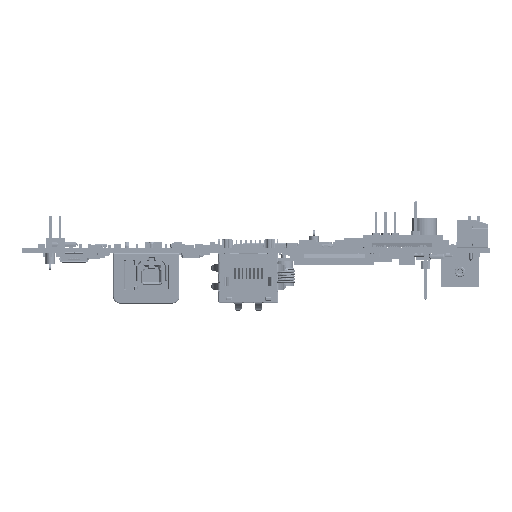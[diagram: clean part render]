
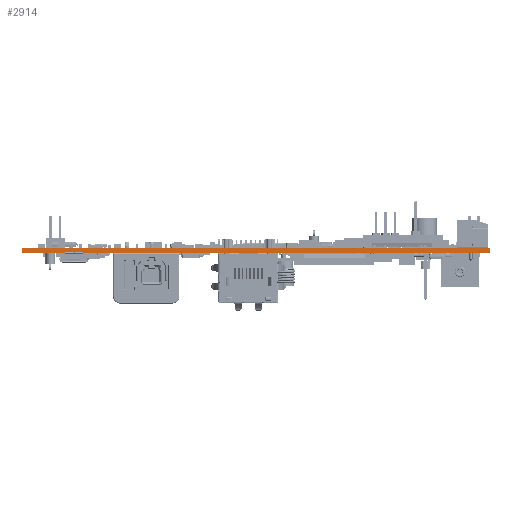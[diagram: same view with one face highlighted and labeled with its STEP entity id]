
A CAD part, left-side view. The second image highlights one B-rep face of the part: STEP entity #2914.
In plain terms, the highlighted planar face has unit normal (-1, 0, 0).
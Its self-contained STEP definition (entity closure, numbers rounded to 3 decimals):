
#2816 = EDGE_CURVE('',#2817,#2819,#2821,.T.);
#2817 = VERTEX_POINT('',#2818);
#2818 = CARTESIAN_POINT('',(0.,0.,-1.443));
#2819 = VERTEX_POINT('',#2820);
#2820 = CARTESIAN_POINT('',(0.,0.,0.));
#2821 = LINE('',#2822,#2823);
#2822 = CARTESIAN_POINT('',(0.,0.,-1.443));
#2823 = VECTOR('',#2824,1.);
#2824 = DIRECTION('',(0.,0.,1.));
#2889 = VERTEX_POINT('',#2890);
#2890 = CARTESIAN_POINT('',(0.,125.,0.));
#2896 = EDGE_CURVE('',#2897,#2889,#2899,.T.);
#2897 = VERTEX_POINT('',#2898);
#2898 = CARTESIAN_POINT('',(0.,125.,-1.443));
#2899 = LINE('',#2900,#2901);
#2900 = CARTESIAN_POINT('',(0.,125.,-1.443));
#2901 = VECTOR('',#2902,1.);
#2902 = DIRECTION('',(0.,0.,1.));
#2914 = ADVANCED_FACE('',(#2915),#2931,.F.);
#2915 = FACE_BOUND('',#2916,.F.);
#2916 = EDGE_LOOP('',(#2917,#2918,#2924,#2925));
#2917 = ORIENTED_EDGE('',*,*,#2896,.T.);
#2918 = ORIENTED_EDGE('',*,*,#2919,.T.);
#2919 = EDGE_CURVE('',#2889,#2819,#2920,.T.);
#2920 = LINE('',#2921,#2922);
#2921 = CARTESIAN_POINT('',(0.,125.,0.));
#2922 = VECTOR('',#2923,1.);
#2923 = DIRECTION('',(0.,-1.,0.));
#2924 = ORIENTED_EDGE('',*,*,#2816,.F.);
#2925 = ORIENTED_EDGE('',*,*,#2926,.F.);
#2926 = EDGE_CURVE('',#2897,#2817,#2927,.T.);
#2927 = LINE('',#2928,#2929);
#2928 = CARTESIAN_POINT('',(0.,125.,-1.443));
#2929 = VECTOR('',#2930,1.);
#2930 = DIRECTION('',(0.,-1.,0.));
#2931 = PLANE('',#2932);
#2932 = AXIS2_PLACEMENT_3D('',#2933,#2934,#2935);
#2933 = CARTESIAN_POINT('',(0.,125.,-1.443));
#2934 = DIRECTION('',(1.,0.,0.));
#2935 = DIRECTION('',(0.,-1.,0.));
